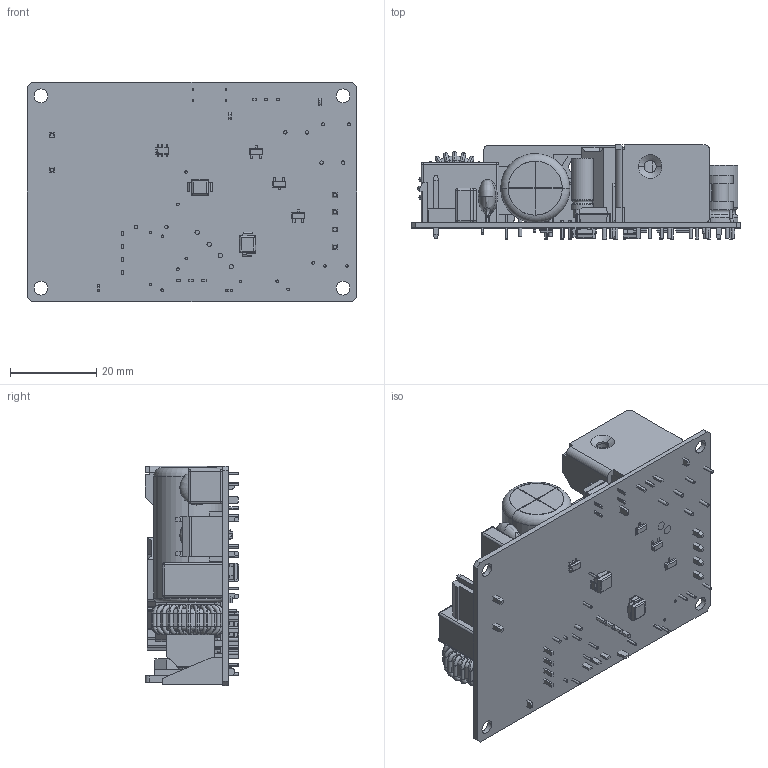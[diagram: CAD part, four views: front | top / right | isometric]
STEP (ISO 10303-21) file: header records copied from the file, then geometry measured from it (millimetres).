
FILE_DESCRIPTION((''),'2;1');
FILE_NAME('MDS-040APS_ASM','2025-06-09T19:45:11',('BRYAN.HUANG'),(''),'CREO PARAMETRIC BY PTC INC, 2023294','CREO PARAMETRIC BY PTC INC, 2023294','');
FILE_SCHEMA(('AUTOMOTIVE_DESIGN { 1 0 10303 214 1 1 1 1 }'));
Length unit declared in the file: millimetre
Products named in the file (39): PWB_AF0; Q132; D1; IC31; E8X4_5PBHB; J3; J2; J1; NUT; B4P-VH_LF_SN; B2P3-VH_LF_SN; T1; FL1_1; FL1_2; FL1_ASM; CY1; C32-1; C105-1_AF0; Z1NTC1; CX1; CX1-M; R9; Q1-1_AF0; L_PIN_FLAT; L_PIN_LEFT; HS1; BD1-M_AF0; IC32_AF0; C102; C103; D101_AF0; HSK2; L101-M_AF0; C1-OK_AF0_1; C1-OK_AF0_2; C1-OK_AF0_3; C1-OK_AF0_ASM; MDS-040APS_STP_ASM; MDS-040APS_ASM
Assembly tree (47 placements, depth 4):
  MDS-040APS_ASM
    MDS-040APS_STP_ASM
      PWB_AF0
      Q132  x3
      D1  x2
      IC31
      E8X4_5PBHB  x2
      J3
      J2
      J1
      NUT  x2
      B4P-VH_LF_SN
      B2P3-VH_LF_SN
      T1
      FL1_ASM
        FL1_1
        FL1_2
      CY1
      C32-1
      C105-1_AF0
      Z1NTC1  x2
      CX1
      CX1-M  x2
      R9
      Q1-1_AF0
      L_PIN_FLAT  x2
      L_PIN_LEFT  x2
      HS1
      BD1-M_AF0
      IC32_AF0
      C102
      C103
      D101_AF0
      HSK2
      L101-M_AF0
      C1-OK_AF0_ASM
        C1-OK_AF0_1
        C1-OK_AF0_2
        C1-OK_AF0_3
Bounding box: 76.2 x 21.7 x 50.8 mm (x, y, z)
Volume: 31189.8 mm3; surface area: 26088.2 mm2
Topology: 44 solids, 44 shells, 1872 faces, 4593 edges, 2738 vertices
Faces by surface type: plane 838, cylinder 628, torus 259, sphere 70, bspline 65, cone 8, revolution 4
Entity records: 56080 total; most frequent: CARTESIAN_POINT 15382, DIRECTION 8659, ORIENTED_EDGE 7810, EDGE_CURVE 3905, AXIS2_PLACEMENT_3D 3256, VERTEX_POINT 2372, VECTOR 2145, LINE 2145
